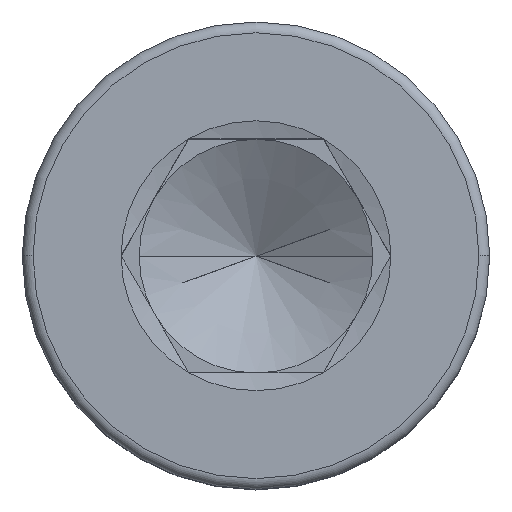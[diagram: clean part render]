
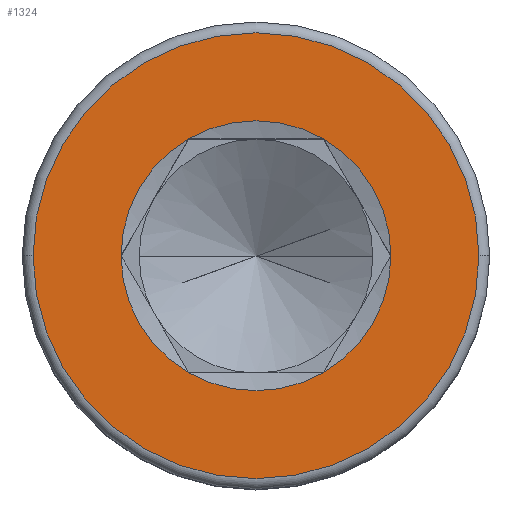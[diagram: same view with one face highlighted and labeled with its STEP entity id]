
A CAD part, top view. The second image highlights one B-rep face of the part: STEP entity #1324.
In plain terms, the highlighted planar face has unit normal (0, 0, 1).
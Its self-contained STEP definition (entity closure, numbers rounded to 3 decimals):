
#17 = EDGE_LOOP ( 'NONE', ( #996, #171, #1635, #1368, #726, #881 ) ) ;
#75 = DIRECTION ( 'NONE',  ( 0., 0., 1. ) ) ;
#118 = AXIS2_PLACEMENT_3D ( 'NONE', #909, #224, #911 ) ;
#126 = EDGE_CURVE ( 'NONE', #512, #1548, #1418, .T. ) ;
#133 = CARTESIAN_POINT ( 'NONE',  ( 4.619, 0., 10. ) ) ;
#137 = EDGE_CURVE ( 'NONE', #1300, #605, #946, .T. ) ;
#162 = VERTEX_POINT ( 'NONE', #1785 ) ;
#170 = CARTESIAN_POINT ( 'NONE',  ( 0., 0., 10. ) ) ;
#171 = ORIENTED_EDGE ( 'NONE', *, *, #1378, .F. ) ;
#224 = DIRECTION ( 'NONE',  ( 0., 0., 1. ) ) ;
#230 = EDGE_CURVE ( 'NONE', #440, #162, #1124, .T. ) ;
#298 = DIRECTION ( 'NONE',  ( 1., 0., 0. ) ) ;
#331 = ORIENTED_EDGE ( 'NONE', *, *, #977, .T. ) ;
#332 = CARTESIAN_POINT ( 'NONE',  ( -2.309, 4., 10. ) ) ;
#391 = EDGE_CURVE ( 'NONE', #162, #778, #1190, .T. ) ;
#410 = CARTESIAN_POINT ( 'NONE',  ( -4.619, 0., 10. ) ) ;
#416 = DIRECTION ( 'NONE',  ( 0., 0., 1. ) ) ;
#429 = PLANE ( 'NONE',  #584 ) ;
#439 = DIRECTION ( 'NONE',  ( 1., 0., 0. ) ) ;
#440 = VERTEX_POINT ( 'NONE', #410 ) ;
#473 = CARTESIAN_POINT ( 'NONE',  ( 7.63, 0., 10. ) ) ;
#508 = CARTESIAN_POINT ( 'NONE',  ( 2.309, -4., 10. ) ) ;
#512 = VERTEX_POINT ( 'NONE', #473 ) ;
#579 = DIRECTION ( 'NONE',  ( 0., 0., 1. ) ) ;
#584 = AXIS2_PLACEMENT_3D ( 'NONE', #1509, #691, #1668 ) ;
#605 = VERTEX_POINT ( 'NONE', #332 ) ;
#635 = DIRECTION ( 'NONE',  ( 1., 0., 0. ) ) ;
#643 = AXIS2_PLACEMENT_3D ( 'NONE', #694, #416, #968 ) ;
#676 = CIRCLE ( 'NONE', #1218, 4.619 ) ;
#691 = DIRECTION ( 'NONE',  ( 0., 0., 1. ) ) ;
#694 = CARTESIAN_POINT ( 'NONE',  ( 0., 0., 10. ) ) ;
#702 = CIRCLE ( 'NONE', #1133, 4.619 ) ;
#710 = FACE_BOUND ( 'NONE', #17, .T. ) ;
#715 = CARTESIAN_POINT ( 'NONE',  ( 0., 0., 10. ) ) ;
#722 = DIRECTION ( 'NONE',  ( 0., 0., 1. ) ) ;
#726 = ORIENTED_EDGE ( 'NONE', *, *, #971, .F. ) ;
#766 = CARTESIAN_POINT ( 'NONE',  ( 0., 0., 10. ) ) ;
#778 = VERTEX_POINT ( 'NONE', #508 ) ;
#816 = AXIS2_PLACEMENT_3D ( 'NONE', #1374, #579, #1259 ) ;
#848 = CARTESIAN_POINT ( 'NONE',  ( 0., 0., 10. ) ) ;
#881 = ORIENTED_EDGE ( 'NONE', *, *, #137, .F. ) ;
#902 = CIRCLE ( 'NONE', #816, 4.619 ) ;
#909 = CARTESIAN_POINT ( 'NONE',  ( 0., 0., 10. ) ) ;
#911 = DIRECTION ( 'NONE',  ( 1., 0., 0. ) ) ;
#946 = CIRCLE ( 'NONE', #1646, 4.619 ) ;
#968 = DIRECTION ( 'NONE',  ( 1., 0., 0. ) ) ;
#971 = EDGE_CURVE ( 'NONE', #605, #440, #676, .T. ) ;
#977 = EDGE_CURVE ( 'NONE', #1548, #512, #1770, .T. ) ;
#988 = DIRECTION ( 'NONE',  ( 1., 0., 0. ) ) ;
#996 = ORIENTED_EDGE ( 'NONE', *, *, #1299, .F. ) ;
#1009 = CARTESIAN_POINT ( 'NONE',  ( -7.63, 0., 10. ) ) ;
#1075 = AXIS2_PLACEMENT_3D ( 'NONE', #1536, #1137, #988 ) ;
#1124 = CIRCLE ( 'NONE', #643, 4.619 ) ;
#1131 = DIRECTION ( 'NONE',  ( 0., 0., 1. ) ) ;
#1133 = AXIS2_PLACEMENT_3D ( 'NONE', #715, #1267, #439 ) ;
#1137 = DIRECTION ( 'NONE',  ( 0., 0., 1. ) ) ;
#1185 = EDGE_LOOP ( 'NONE', ( #1750, #331 ) ) ;
#1190 = CIRCLE ( 'NONE', #1075, 4.619 ) ;
#1213 = AXIS2_PLACEMENT_3D ( 'NONE', #170, #722, #1579 ) ;
#1218 = AXIS2_PLACEMENT_3D ( 'NONE', #766, #75, #635 ) ;
#1259 = DIRECTION ( 'NONE',  ( 1., 0., 0. ) ) ;
#1267 = DIRECTION ( 'NONE',  ( 0., 0., 1. ) ) ;
#1299 = EDGE_CURVE ( 'NONE', #1354, #1300, #902, .T. ) ;
#1300 = VERTEX_POINT ( 'NONE', #1675 ) ;
#1324 = ADVANCED_FACE ( 'NONE', ( #1782, #710 ), #429, .T. ) ;
#1354 = VERTEX_POINT ( 'NONE', #133 ) ;
#1368 = ORIENTED_EDGE ( 'NONE', *, *, #230, .F. ) ;
#1374 = CARTESIAN_POINT ( 'NONE',  ( 0., 0., 10. ) ) ;
#1378 = EDGE_CURVE ( 'NONE', #778, #1354, #702, .T. ) ;
#1418 = CIRCLE ( 'NONE', #1213, 7.63 ) ;
#1509 = CARTESIAN_POINT ( 'NONE',  ( 0., 0., 10. ) ) ;
#1536 = CARTESIAN_POINT ( 'NONE',  ( 0., 0., 10. ) ) ;
#1548 = VERTEX_POINT ( 'NONE', #1009 ) ;
#1579 = DIRECTION ( 'NONE',  ( 1., 0., 0. ) ) ;
#1635 = ORIENTED_EDGE ( 'NONE', *, *, #391, .F. ) ;
#1646 = AXIS2_PLACEMENT_3D ( 'NONE', #848, #1131, #298 ) ;
#1668 = DIRECTION ( 'NONE',  ( 1., 0., 0. ) ) ;
#1675 = CARTESIAN_POINT ( 'NONE',  ( 2.309, 4., 10. ) ) ;
#1750 = ORIENTED_EDGE ( 'NONE', *, *, #126, .T. ) ;
#1770 = CIRCLE ( 'NONE', #118, 7.63 ) ;
#1782 = FACE_OUTER_BOUND ( 'NONE', #1185, .T. ) ;
#1785 = CARTESIAN_POINT ( 'NONE',  ( -2.309, -4., 10. ) ) ;
